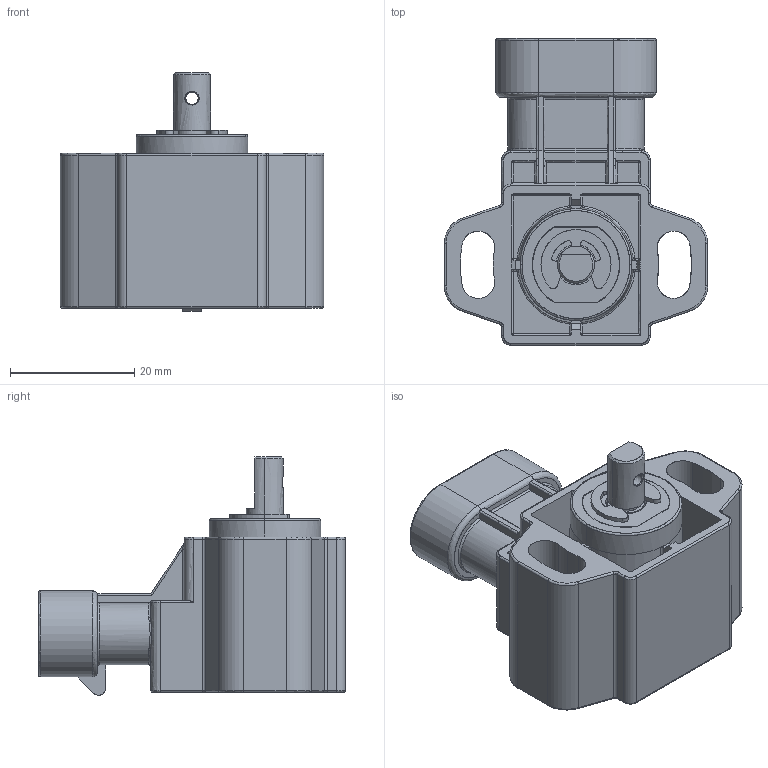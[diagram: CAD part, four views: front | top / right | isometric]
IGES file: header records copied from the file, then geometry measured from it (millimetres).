
Start section: SolidWorks IGES file using analytic representation for surfaces
Global section: file name: \\srv4gefran\dir-cat\Disegni Catalogo\Mobile\GR3P\GR3P 32\3D\Solidworks 2024\GR3PA S3E2MS xxx xxxx X0.IGS; native system: SolidWorks 2024; preprocessor: SolidWorks 2024; author: Loda-w1; date: 241219.154320; units: millimetre
Bounding box: 42.5 x 49.5 x 38.47 mm (x, y, z)
Surface area: 11785.9 mm2 (no closed solid volume)
Topology: 0 solids, 0 shells, 507 faces, 4365 edges, 4338 vertices
Faces by surface type: bspline 269, revolution 238
